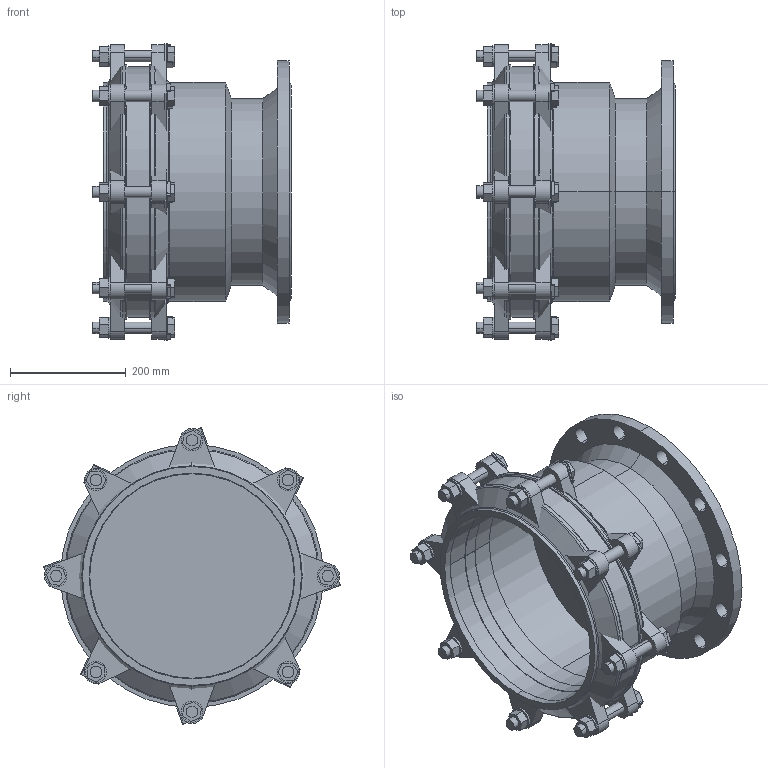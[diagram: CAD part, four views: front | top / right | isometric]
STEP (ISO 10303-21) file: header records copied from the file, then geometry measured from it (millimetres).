
FILE_DESCRIPTION(('STEP AP214'),'1');
FILE_NAME('EM100067 DN 300.STP','2015-01-29T13:48:51',(' '),(' '),'Spatial InterOp 3D',' ',' ');
FILE_SCHEMA(('automotive_design'));
Length unit declared in the file: millimetre
Products named in the file (42): 3D-Objekt
Bounding box: 344 x 513.78 x 513.78 mm (x, y, z)
Volume: 10225002.8 mm3; surface area: 2108892.6 mm2
Topology: 42 solids, 42 shells, 530 faces, 1240 edges, 826 vertices
Faces by surface type: plane 356, cylinder 148, cone 14, torus 12
Entity records: 20458 total; most frequent: DIRECTION 2742, CARTESIAN_POINT 2638, ORIENTED_EDGE 2480, EDGE_CURVE 1240, AXIS2_PLACEMENT_3D 930, LINE 882, VECTOR 882, VERTEX_POINT 826
